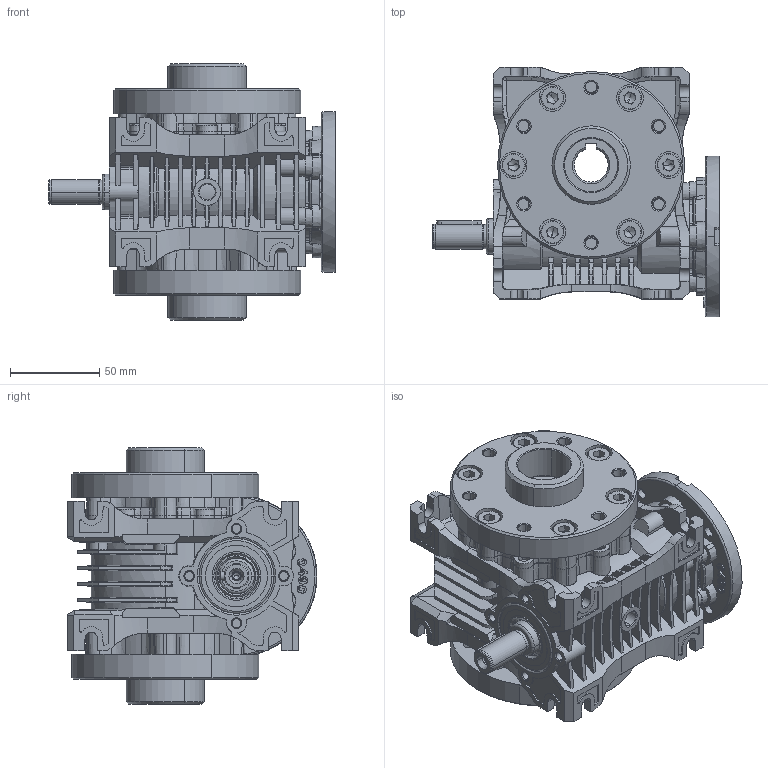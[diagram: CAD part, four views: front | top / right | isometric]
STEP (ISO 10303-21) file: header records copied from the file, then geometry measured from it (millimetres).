
FILE_DESCRIPTION (( 'STEP AP203' ), '1' );
FILE_NAME ('MRP-40_90_11-WBS_SO-2_3D.STEP', '2024-10-23T05:22:27', ( '' ), ( '' ), 'SwSTEP 2.0', 'SolidWorks 2022', '' );
FILE_SCHEMA (( 'CONFIG_CONTROL_DESIGN' ));
Length unit declared in the file: millimetre
Products named in the file (1): MRP-40_90_11-WBS_SO-2_3D
Bounding box: 161 x 140.06 x 144 mm (x, y, z)
Volume: 972390.9 mm3; surface area: 228142.6 mm2
Topology: 1 solids, 62 shells, 2968 faces, 7772 edges, 4977 vertices
Faces by surface type: plane 1175, cone 904, cylinder 524, bspline 240, torus 125
Entity records: 100852 total; most frequent: CARTESIAN_POINT 30316, ORIENTED_EDGE 15424, DIRECTION 14131, EDGE_CURVE 7712, AXIS2_PLACEMENT_3D 5348, VERTEX_POINT 4977, VECTOR 3435, LINE 3435
